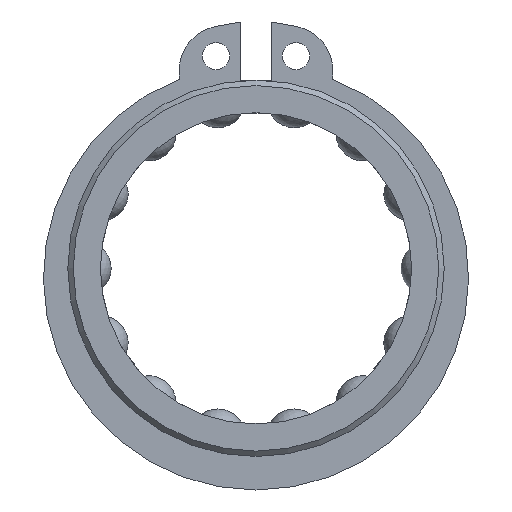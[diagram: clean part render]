
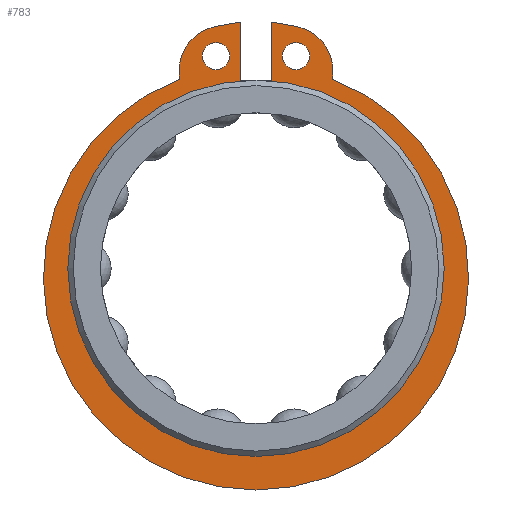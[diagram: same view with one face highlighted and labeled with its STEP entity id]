
A CAD part, left-side view. The second image highlights one B-rep face of the part: STEP entity #783.
In plain terms, the highlighted planar face has unit normal (-1, 0, 0).
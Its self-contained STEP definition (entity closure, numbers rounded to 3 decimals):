
#49=FACE_BOUND('',#295,.T.);
#50=FACE_BOUND('',#296,.T.);
#62=PLANE('',#878);
#75=LINE('',#2246,#107);
#83=LINE('',#2275,#115);
#87=LINE('',#2287,#119);
#90=LINE('',#2294,#122);
#91=LINE('',#2297,#123);
#94=LINE('',#2304,#126);
#107=VECTOR('',#997,10.);
#115=VECTOR('',#1023,10.);
#119=VECTOR('',#1037,10.);
#122=VECTOR('',#1046,10.);
#123=VECTOR('',#1049,10.);
#126=VECTOR('',#1058,10.);
#137=CIRCLE('',#854,2.5);
#144=CIRCLE('',#864,2.5);
#145=CIRCLE('',#867,0.75);
#146=CIRCLE('',#869,0.75);
#147=CIRCLE('',#872,11.75);
#148=CIRCLE('',#876,10.05);
#210=FACE_OUTER_BOUND('',#294,.T.);
#294=EDGE_LOOP('',(#641,#642,#643,#644,#645,#646,#647,#648,#649,#650));
#295=EDGE_LOOP('',(#651));
#296=EDGE_LOOP('',(#652));
#371=VERTEX_POINT('',#2233);
#372=VERTEX_POINT('',#2234);
#376=VERTEX_POINT('',#2244);
#386=VERTEX_POINT('',#2268);
#387=VERTEX_POINT('',#2269);
#388=VERTEX_POINT('',#2274);
#389=VERTEX_POINT('',#2278);
#390=VERTEX_POINT('',#2282);
#391=VERTEX_POINT('',#2286);
#392=VERTEX_POINT('',#2290);
#393=VERTEX_POINT('',#2296);
#394=VERTEX_POINT('',#2300);
#445=EDGE_CURVE('',#371,#372,#137,.T.);
#451=EDGE_CURVE('',#371,#376,#75,.T.);
#462=EDGE_CURVE('',#386,#387,#144,.T.);
#465=EDGE_CURVE('',#388,#387,#83,.T.);
#467=EDGE_CURVE('',#389,#389,#145,.T.);
#469=EDGE_CURVE('',#390,#390,#146,.T.);
#471=EDGE_CURVE('',#391,#372,#87,.T.);
#473=EDGE_CURVE('',#392,#391,#147,.T.);
#475=EDGE_CURVE('',#386,#392,#90,.T.);
#476=EDGE_CURVE('',#393,#388,#91,.T.);
#478=EDGE_CURVE('',#394,#393,#148,.T.);
#480=EDGE_CURVE('',#376,#394,#94,.T.);
#641=ORIENTED_EDGE('',*,*,#445,.F.);
#642=ORIENTED_EDGE('',*,*,#451,.T.);
#643=ORIENTED_EDGE('',*,*,#480,.T.);
#644=ORIENTED_EDGE('',*,*,#478,.T.);
#645=ORIENTED_EDGE('',*,*,#476,.T.);
#646=ORIENTED_EDGE('',*,*,#465,.T.);
#647=ORIENTED_EDGE('',*,*,#462,.F.);
#648=ORIENTED_EDGE('',*,*,#475,.T.);
#649=ORIENTED_EDGE('',*,*,#473,.T.);
#650=ORIENTED_EDGE('',*,*,#471,.T.);
#651=ORIENTED_EDGE('',*,*,#469,.T.);
#652=ORIENTED_EDGE('',*,*,#467,.T.);
#783=ADVANCED_FACE('',(#210,#49,#50),#62,.T.);
#854=AXIS2_PLACEMENT_3D('',#2235,#987,#988);
#864=AXIS2_PLACEMENT_3D('',#2270,#1017,#1018);
#867=AXIS2_PLACEMENT_3D('',#2279,#1027,#1028);
#869=AXIS2_PLACEMENT_3D('',#2283,#1032,#1033);
#872=AXIS2_PLACEMENT_3D('',#2291,#1041,#1042);
#876=AXIS2_PLACEMENT_3D('',#2301,#1053,#1054);
#878=AXIS2_PLACEMENT_3D('',#2305,#1059,#1060);
#987=DIRECTION('center_axis',(1.,0.,0.));
#988=DIRECTION('ref_axis',(0.,-0.766,0.643));
#997=DIRECTION('',(0.,0.985,0.174));
#1017=DIRECTION('center_axis',(1.,0.,0.));
#1018=DIRECTION('ref_axis',(0.,0.766,0.643));
#1023=DIRECTION('',(0.,0.985,-0.174));
#1027=DIRECTION('center_axis',(1.,0.,0.));
#1028=DIRECTION('ref_axis',(0.,0.,-1.));
#1032=DIRECTION('center_axis',(1.,0.,0.));
#1033=DIRECTION('ref_axis',(0.,0.,-1.));
#1037=DIRECTION('',(0.,0.,1.));
#1041=DIRECTION('center_axis',(-1.,0.,0.));
#1042=DIRECTION('ref_axis',(0.,0.362,0.932));
#1046=DIRECTION('',(0.,0.,-1.));
#1049=DIRECTION('',(0.,0.,1.));
#1053=DIRECTION('center_axis',(1.,0.,0.));
#1054=DIRECTION('ref_axis',(0.,-0.085,-0.996));
#1058=DIRECTION('',(0.,0.,-1.));
#1059=DIRECTION('center_axis',(-1.,0.,0.));
#1060=DIRECTION('ref_axis',(0.,0.,1.));
#2233=CARTESIAN_POINT('',(1.7,-2.184,13.379));
#2234=CARTESIAN_POINT('',(1.7,-4.25,10.917));
#2235=CARTESIAN_POINT('Origin',(1.7,-1.75,10.917));
#2244=CARTESIAN_POINT('',(1.7,-0.85,13.614));
#2246=CARTESIAN_POINT('',(1.7,-4.25,13.014));
#2268=CARTESIAN_POINT('',(1.7,4.25,10.917));
#2269=CARTESIAN_POINT('',(1.7,2.184,13.379));
#2270=CARTESIAN_POINT('Origin',(1.7,1.75,10.917));
#2274=CARTESIAN_POINT('',(1.7,0.85,13.614));
#2275=CARTESIAN_POINT('',(1.7,0.85,13.614));
#2278=CARTESIAN_POINT('',(1.7,2.21,12.479));
#2279=CARTESIAN_POINT('Origin',(1.7,2.21,11.729));
#2282=CARTESIAN_POINT('',(1.7,-2.21,12.479));
#2283=CARTESIAN_POINT('Origin',(1.7,-2.21,11.729));
#2286=CARTESIAN_POINT('',(1.7,-4.25,10.454));
#2287=CARTESIAN_POINT('',(1.7,-4.25,10.454));
#2290=CARTESIAN_POINT('',(1.7,4.25,10.454));
#2291=CARTESIAN_POINT('Origin',(1.7,0.,-0.5));
#2294=CARTESIAN_POINT('',(1.7,4.25,13.014));
#2296=CARTESIAN_POINT('',(1.7,0.85,10.014));
#2297=CARTESIAN_POINT('',(1.7,0.85,8.309));
#2300=CARTESIAN_POINT('',(1.7,-0.85,10.014));
#2301=CARTESIAN_POINT('Origin',(1.7,0.,0.));
#2304=CARTESIAN_POINT('',(1.7,-0.85,13.614));
#2305=CARTESIAN_POINT('Origin',(1.7,0.,0.682));
